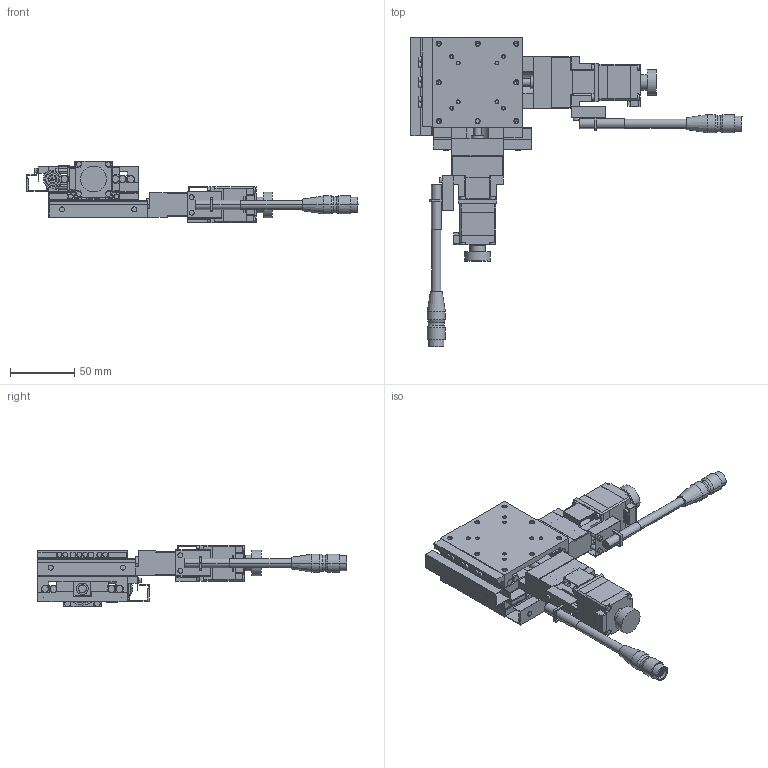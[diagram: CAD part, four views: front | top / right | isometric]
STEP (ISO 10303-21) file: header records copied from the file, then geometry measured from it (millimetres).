
FILE_DESCRIPTION(('STEP AP203'),'1');
FILE_NAME('C:/3D-Trans/3D_PMG715T-R□-C4+240122.step','2024-02-27T00:33:18',(' '),(' '),'Spatial InterOp 3D',' ',' ');
FILE_SCHEMA(('CONFIG_CONTROL_DESIGN'));
Length unit declared in the file: millimetre
Products named in the file (12): 1; 2; 3; 4; 5; 6; 7; 8; 9; 10; 11; 12
Bounding box: 257.4 x 240 x 48 mm (x, y, z)
Volume: 276005.4 mm3; surface area: 132131.3 mm2
Topology: 12 solids, 12 shells, 1494 faces, 3754 edges, 2386 vertices
Faces by surface type: plane 828, cylinder 500, cone 164, extrusion 2
Entity records: 45572 total; most frequent: CARTESIAN_POINT 8250, DIRECTION 7902, ORIENTED_EDGE 7428, EDGE_CURVE 3714, AXIS2_PLACEMENT_3D 2710, VECTOR 2482, LINE 2480, VERTEX_POINT 2386
